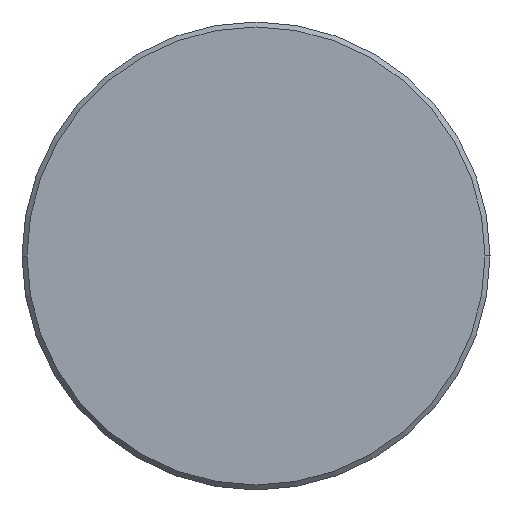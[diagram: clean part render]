
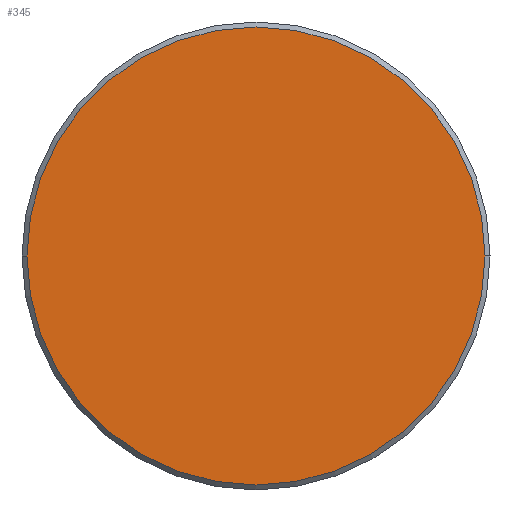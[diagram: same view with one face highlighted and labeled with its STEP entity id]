
A CAD part, left-side view. The second image highlights one B-rep face of the part: STEP entity #345.
In plain terms, the highlighted planar face has unit normal (-1, 0, 0).
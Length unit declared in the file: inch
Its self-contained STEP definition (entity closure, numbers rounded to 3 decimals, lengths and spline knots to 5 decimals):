
#32 = DIRECTION ( 'NONE',  ( -1., 0., 0. ) ) ;
#54 = CARTESIAN_POINT ( 'NONE',  ( 0., 0., 0. ) ) ;
#79 = CIRCLE ( 'NONE', #372, 0.1835 ) ;
#88 = DIRECTION ( 'NONE',  ( -1., 0., 0. ) ) ;
#131 = CIRCLE ( 'NONE', #313, 0.1835 ) ;
#148 = AXIS2_PLACEMENT_3D ( 'NONE', #327, #211, #272 ) ;
#156 = VERTEX_POINT ( 'NONE', #286 ) ;
#158 = EDGE_CURVE ( 'NONE', #324, #156, #79, .T. ) ;
#171 = DIRECTION ( 'NONE',  ( 0., -1., 0. ) ) ;
#198 = DIRECTION ( 'NONE',  ( 0., -1., 0. ) ) ;
#206 = EDGE_CURVE ( 'NONE', #156, #324, #131, .T. ) ;
#211 = DIRECTION ( 'NONE',  ( -1., 0., 0. ) ) ;
#213 = ORIENTED_EDGE ( 'NONE', *, *, #158, .T. ) ;
#217 = ORIENTED_EDGE ( 'NONE', *, *, #206, .T. ) ;
#228 = FACE_OUTER_BOUND ( 'NONE', #373, .T. ) ;
#236 = CARTESIAN_POINT ( 'NONE',  ( 0., -0.1835, 0. ) ) ;
#272 = DIRECTION ( 'NONE',  ( 0., -1., 0. ) ) ;
#286 = CARTESIAN_POINT ( 'NONE',  ( 0., 0.1835, 0. ) ) ;
#293 = CARTESIAN_POINT ( 'NONE',  ( 0., 0., 0. ) ) ;
#300 = PLANE ( 'NONE',  #148 ) ;
#313 = AXIS2_PLACEMENT_3D ( 'NONE', #293, #32, #171 ) ;
#324 = VERTEX_POINT ( 'NONE', #236 ) ;
#327 = CARTESIAN_POINT ( 'NONE',  ( 0., 0., 0. ) ) ;
#345 = ADVANCED_FACE ( 'NONE', ( #228 ), #300, .T. ) ;
#372 = AXIS2_PLACEMENT_3D ( 'NONE', #54, #88, #198 ) ;
#373 = EDGE_LOOP ( 'NONE', ( #217, #213 ) ) ;
